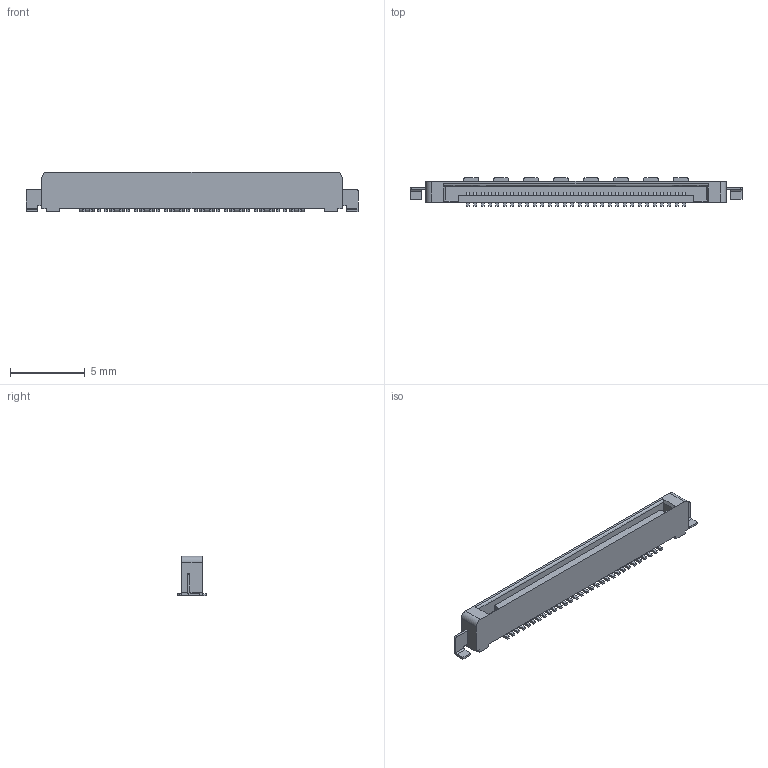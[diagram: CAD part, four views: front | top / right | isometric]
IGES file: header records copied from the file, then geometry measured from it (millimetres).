
Start section: Elysium IGES Interface
Global section: file name: C:\Users\1088\Desktop\P39289_SSL00-30S\P39289_SSL00-30S.igs; native system: Creo Elements/Direct Modeling 19.0F  14-Feb-2017; preprocessor: Creo Element/Direct IGES_3D V2.2; author: Unknown; organization: Unknown; date: 20171011.134857; units: millimetre
Bounding box: 22.2 x 1.9 x 2.65 mm (x, y, z)
Volume: 51.1 mm3; surface area: 276.1 mm2
Topology: 1 solids, 1 shells, 598 faces, 1753 edges, 1168 vertices
Faces by surface type: bspline 598
